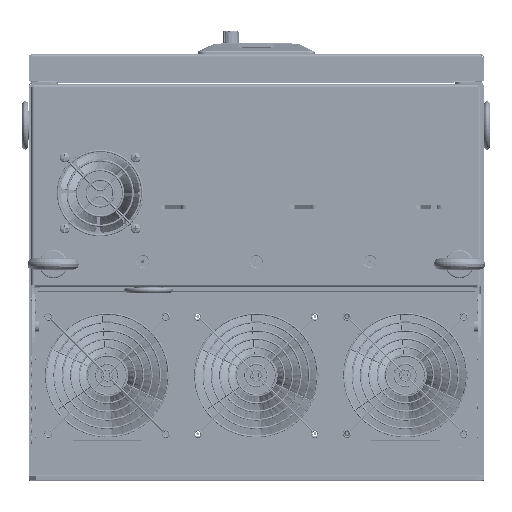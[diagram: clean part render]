
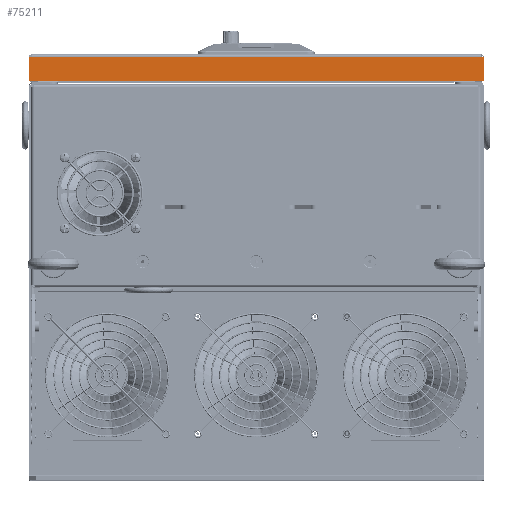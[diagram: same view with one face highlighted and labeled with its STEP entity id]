
A CAD part, top view. The second image highlights one B-rep face of the part: STEP entity #75211.
In plain terms, the highlighted planar face has unit normal (0, 0, 1).
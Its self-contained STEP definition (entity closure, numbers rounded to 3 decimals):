
#82 = LINE ( 'NONE', #165066, #51021 ) ;
#1700 = ORIENTED_EDGE ( 'NONE', *, *, #26729, .T. ) ;
#3985 = EDGE_CURVE ( 'NONE', #99354, #181047, #193881, .T. ) ;
#7609 = VECTOR ( 'NONE', #21658, 1000. ) ;
#13188 = EDGE_LOOP ( 'NONE', ( #76018, #116612, #54837, #1700, #72732, #89993 ) ) ;
#20469 = VERTEX_POINT ( 'NONE', #33298 ) ;
#21402 = CARTESIAN_POINT ( 'NONE',  ( 94.658, 128.159, 512.38 ) ) ;
#21658 = DIRECTION ( 'NONE',  ( -1., 0., 0. ) ) ;
#26729 = EDGE_CURVE ( 'NONE', #43742, #32411, #82, .T. ) ;
#31904 = CARTESIAN_POINT ( 'NONE',  ( -225.342, 128.159, 512.38 ) ) ;
#32411 = VERTEX_POINT ( 'NONE', #178640 ) ;
#33298 = CARTESIAN_POINT ( 'NONE',  ( 92.958, 144.959, 512.38 ) ) ;
#34537 = CARTESIAN_POINT ( 'NONE',  ( -65.342, 144.959, 512.38 ) ) ;
#43742 = VERTEX_POINT ( 'NONE', #129240 ) ;
#48303 = CARTESIAN_POINT ( 'NONE',  ( -65.342, 144.959, 512.38 ) ) ;
#51021 = VECTOR ( 'NONE', #137434, 1000. ) ;
#54837 = ORIENTED_EDGE ( 'NONE', *, *, #65545, .T. ) ;
#65545 = EDGE_CURVE ( 'NONE', #20469, #43742, #185596, .T. ) ;
#67746 = PLANE ( 'NONE',  #171919 ) ;
#71666 = DIRECTION ( 'NONE',  ( 0., -1., 0. ) ) ;
#72732 = ORIENTED_EDGE ( 'NONE', *, *, #175505, .F. ) ;
#75211 = ADVANCED_FACE ( 'NONE', ( #82603 ), #67746, .T. ) ;
#76018 = ORIENTED_EDGE ( 'NONE', *, *, #96959, .F. ) ;
#76953 = DIRECTION ( 'NONE',  ( -1., 0., 0. ) ) ;
#77945 = LINE ( 'NONE', #48303, #192215 ) ;
#80679 = DIRECTION ( 'NONE',  ( 0., -1., 0. ) ) ;
#82603 = FACE_OUTER_BOUND ( 'NONE', #13188, .T. ) ;
#87366 = VERTEX_POINT ( 'NONE', #112368 ) ;
#89993 = ORIENTED_EDGE ( 'NONE', *, *, #3985, .F. ) ;
#96959 = EDGE_CURVE ( 'NONE', #87366, #99354, #183377, .T. ) ;
#99354 = VERTEX_POINT ( 'NONE', #109677 ) ;
#107269 = LINE ( 'NONE', #126094, #129284 ) ;
#109677 = CARTESIAN_POINT ( 'NONE',  ( 94.658, 128.159, 512.38 ) ) ;
#112368 = CARTESIAN_POINT ( 'NONE',  ( 94.658, 144.959, 512.38 ) ) ;
#116612 = ORIENTED_EDGE ( 'NONE', *, *, #186565, .T. ) ;
#126094 = CARTESIAN_POINT ( 'NONE',  ( -225.342, 145.459, 512.38 ) ) ;
#127192 = CARTESIAN_POINT ( 'NONE',  ( -225.342, 128.159, 512.38 ) ) ;
#129240 = CARTESIAN_POINT ( 'NONE',  ( -223.642, 144.959, 512.38 ) ) ;
#129284 = VECTOR ( 'NONE', #186218, 1000. ) ;
#131089 = DIRECTION ( 'NONE',  ( 0., 0., 1. ) ) ;
#132061 = CARTESIAN_POINT ( 'NONE',  ( -65.342, 146.659, 512.38 ) ) ;
#137434 = DIRECTION ( 'NONE',  ( -1., 0., 0. ) ) ;
#139647 = VECTOR ( 'NONE', #151576, 1000. ) ;
#143375 = VECTOR ( 'NONE', #80679, 1000. ) ;
#151576 = DIRECTION ( 'NONE',  ( -1., 0., 0. ) ) ;
#165066 = CARTESIAN_POINT ( 'NONE',  ( -65.342, 144.959, 512.38 ) ) ;
#171919 = AXIS2_PLACEMENT_3D ( 'NONE', #132061, #131089, #71666 ) ;
#175505 = EDGE_CURVE ( 'NONE', #181047, #32411, #107269, .T. ) ;
#178640 = CARTESIAN_POINT ( 'NONE',  ( -225.342, 144.959, 512.38 ) ) ;
#181047 = VERTEX_POINT ( 'NONE', #127192 ) ;
#183377 = LINE ( 'NONE', #21402, #143375 ) ;
#185596 = LINE ( 'NONE', #34537, #7609 ) ;
#186218 = DIRECTION ( 'NONE',  ( 0., 1., 0. ) ) ;
#186565 = EDGE_CURVE ( 'NONE', #87366, #20469, #77945, .T. ) ;
#192215 = VECTOR ( 'NONE', #76953, 1000. ) ;
#193881 = LINE ( 'NONE', #31904, #139647 ) ;
